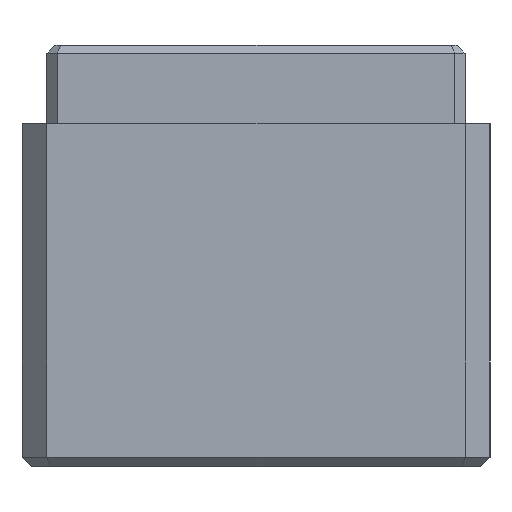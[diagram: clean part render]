
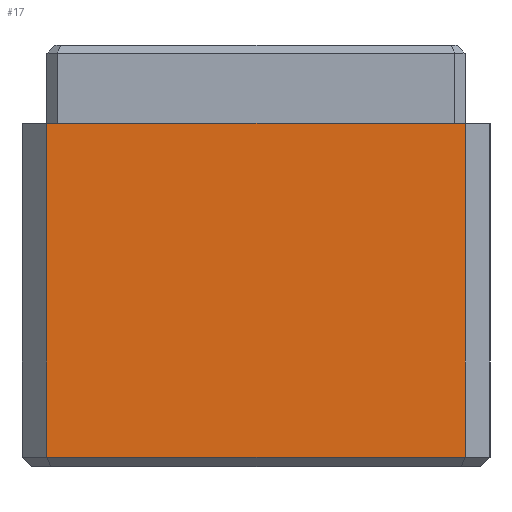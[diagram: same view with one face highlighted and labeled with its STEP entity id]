
A CAD part, left-side view. The second image highlights one B-rep face of the part: STEP entity #17.
In plain terms, the highlighted planar face has unit normal (-1, 0, 0).
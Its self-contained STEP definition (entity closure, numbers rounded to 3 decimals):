
#17 = ADVANCED_FACE('',(#18),#32,.T.);
#18 = FACE_BOUND('',#19,.T.);
#19 = EDGE_LOOP('',(#20,#55,#83,#111));
#20 = ORIENTED_EDGE('',*,*,#21,.T.);
#21 = EDGE_CURVE('',#22,#24,#26,.T.);
#22 = VERTEX_POINT('',#23);
#23 = CARTESIAN_POINT('',(-73.5,-13.4,0.6));
#24 = VERTEX_POINT('',#25);
#25 = CARTESIAN_POINT('',(-73.5,-13.4,22.));
#26 = SURFACE_CURVE('',#27,(#31,#43),.PCURVE_S1.);
#27 = LINE('',#28,#29);
#28 = CARTESIAN_POINT('',(-73.5,-13.4,0.));
#29 = VECTOR('',#30,1.);
#30 = DIRECTION('',(0.,0.,1.));
#31 = PCURVE('',#32,#37);
#32 = PLANE('',#33);
#33 = AXIS2_PLACEMENT_3D('',#34,#35,#36);
#34 = CARTESIAN_POINT('',(-73.5,-13.4,0.));
#35 = DIRECTION('',(-1.,-0.,0.));
#36 = DIRECTION('',(-0.,1.,0.));
#37 = DEFINITIONAL_REPRESENTATION('',(#38),#42);
#38 = LINE('',#39,#40);
#39 = CARTESIAN_POINT('',(0.,0.));
#40 = VECTOR('',#41,1.);
#41 = DIRECTION('',(0.,-1.));
#42 = ( GEOMETRIC_REPRESENTATION_CONTEXT(2) 
PARAMETRIC_REPRESENTATION_CONTEXT() REPRESENTATION_CONTEXT('2D SPACE',''
  ) );
#43 = PCURVE('',#44,#49);
#44 = PLANE('',#45);
#45 = AXIS2_PLACEMENT_3D('',#46,#47,#48);
#46 = CARTESIAN_POINT('',(-73.5,-13.4,0.));
#47 = DIRECTION('',(0.707,0.707,-0.));
#48 = DIRECTION('',(0.707,-0.707,0.));
#49 = DEFINITIONAL_REPRESENTATION('',(#50),#54);
#50 = LINE('',#51,#52);
#51 = CARTESIAN_POINT('',(0.,0.));
#52 = VECTOR('',#53,1.);
#53 = DIRECTION('',(0.,-1.));
#54 = ( GEOMETRIC_REPRESENTATION_CONTEXT(2) 
PARAMETRIC_REPRESENTATION_CONTEXT() REPRESENTATION_CONTEXT('2D SPACE',''
  ) );
#55 = ORIENTED_EDGE('',*,*,#56,.T.);
#56 = EDGE_CURVE('',#24,#57,#59,.T.);
#57 = VERTEX_POINT('',#58);
#58 = CARTESIAN_POINT('',(-73.5,13.4,22.));
#59 = SURFACE_CURVE('',#60,(#64,#71),.PCURVE_S1.);
#60 = LINE('',#61,#62);
#61 = CARTESIAN_POINT('',(-73.5,0.,22.));
#62 = VECTOR('',#63,1.);
#63 = DIRECTION('',(-0.,1.,0.));
#64 = PCURVE('',#32,#65);
#65 = DEFINITIONAL_REPRESENTATION('',(#66),#70);
#66 = LINE('',#67,#68);
#67 = CARTESIAN_POINT('',(13.4,-22.));
#68 = VECTOR('',#69,1.);
#69 = DIRECTION('',(1.,0.));
#70 = ( GEOMETRIC_REPRESENTATION_CONTEXT(2) 
PARAMETRIC_REPRESENTATION_CONTEXT() REPRESENTATION_CONTEXT('2D SPACE',''
  ) );
#71 = PCURVE('',#72,#77);
#72 = PLANE('',#73);
#73 = AXIS2_PLACEMENT_3D('',#74,#75,#76);
#74 = CARTESIAN_POINT('',(0.,0.,22.));
#75 = DIRECTION('',(0.,0.,1.));
#76 = DIRECTION('',(1.,0.,-0.));
#77 = DEFINITIONAL_REPRESENTATION('',(#78),#82);
#78 = LINE('',#79,#80);
#79 = CARTESIAN_POINT('',(-73.5,0.));
#80 = VECTOR('',#81,1.);
#81 = DIRECTION('',(0.,1.));
#82 = ( GEOMETRIC_REPRESENTATION_CONTEXT(2) 
PARAMETRIC_REPRESENTATION_CONTEXT() REPRESENTATION_CONTEXT('2D SPACE',''
  ) );
#83 = ORIENTED_EDGE('',*,*,#84,.F.);
#84 = EDGE_CURVE('',#85,#57,#87,.T.);
#85 = VERTEX_POINT('',#86);
#86 = CARTESIAN_POINT('',(-73.5,13.4,0.6));
#87 = SURFACE_CURVE('',#88,(#92,#99),.PCURVE_S1.);
#88 = LINE('',#89,#90);
#89 = CARTESIAN_POINT('',(-73.5,13.4,0.));
#90 = VECTOR('',#91,1.);
#91 = DIRECTION('',(0.,0.,1.));
#92 = PCURVE('',#32,#93);
#93 = DEFINITIONAL_REPRESENTATION('',(#94),#98);
#94 = LINE('',#95,#96);
#95 = CARTESIAN_POINT('',(26.8,0.));
#96 = VECTOR('',#97,1.);
#97 = DIRECTION('',(0.,-1.));
#98 = ( GEOMETRIC_REPRESENTATION_CONTEXT(2) 
PARAMETRIC_REPRESENTATION_CONTEXT() REPRESENTATION_CONTEXT('2D SPACE',''
  ) );
#99 = PCURVE('',#100,#105);
#100 = PLANE('',#101);
#101 = AXIS2_PLACEMENT_3D('',#102,#103,#104);
#102 = CARTESIAN_POINT('',(-73.5,13.4,0.));
#103 = DIRECTION('',(-0.707,0.707,0.));
#104 = DIRECTION('',(0.707,0.707,0.));
#105 = DEFINITIONAL_REPRESENTATION('',(#106),#110);
#106 = LINE('',#107,#108);
#107 = CARTESIAN_POINT('',(0.,0.));
#108 = VECTOR('',#109,1.);
#109 = DIRECTION('',(0.,-1.));
#110 = ( GEOMETRIC_REPRESENTATION_CONTEXT(2) 
PARAMETRIC_REPRESENTATION_CONTEXT() REPRESENTATION_CONTEXT('2D SPACE',''
  ) );
#111 = ORIENTED_EDGE('',*,*,#112,.F.);
#112 = EDGE_CURVE('',#22,#85,#113,.T.);
#113 = SURFACE_CURVE('',#114,(#118,#125),.PCURVE_S1.);
#114 = LINE('',#115,#116);
#115 = CARTESIAN_POINT('',(-73.5,-13.4,0.6));
#116 = VECTOR('',#117,1.);
#117 = DIRECTION('',(-0.,1.,0.));
#118 = PCURVE('',#32,#119);
#119 = DEFINITIONAL_REPRESENTATION('',(#120),#124);
#120 = LINE('',#121,#122);
#121 = CARTESIAN_POINT('',(0.,-0.6));
#122 = VECTOR('',#123,1.);
#123 = DIRECTION('',(1.,0.));
#124 = ( GEOMETRIC_REPRESENTATION_CONTEXT(2) 
PARAMETRIC_REPRESENTATION_CONTEXT() REPRESENTATION_CONTEXT('2D SPACE',''
  ) );
#125 = PCURVE('',#126,#131);
#126 = PLANE('',#127);
#127 = AXIS2_PLACEMENT_3D('',#128,#129,#130);
#128 = CARTESIAN_POINT('',(-73.2,-13.4,0.3));
#129 = DIRECTION('',(0.707,0.,0.707));
#130 = DIRECTION('',(0.,-1.,-0.));
#131 = DEFINITIONAL_REPRESENTATION('',(#132),#136);
#132 = LINE('',#133,#134);
#133 = CARTESIAN_POINT('',(-0.,-0.424));
#134 = VECTOR('',#135,1.);
#135 = DIRECTION('',(-1.,0.));
#136 = ( GEOMETRIC_REPRESENTATION_CONTEXT(2) 
PARAMETRIC_REPRESENTATION_CONTEXT() REPRESENTATION_CONTEXT('2D SPACE',''
  ) );
